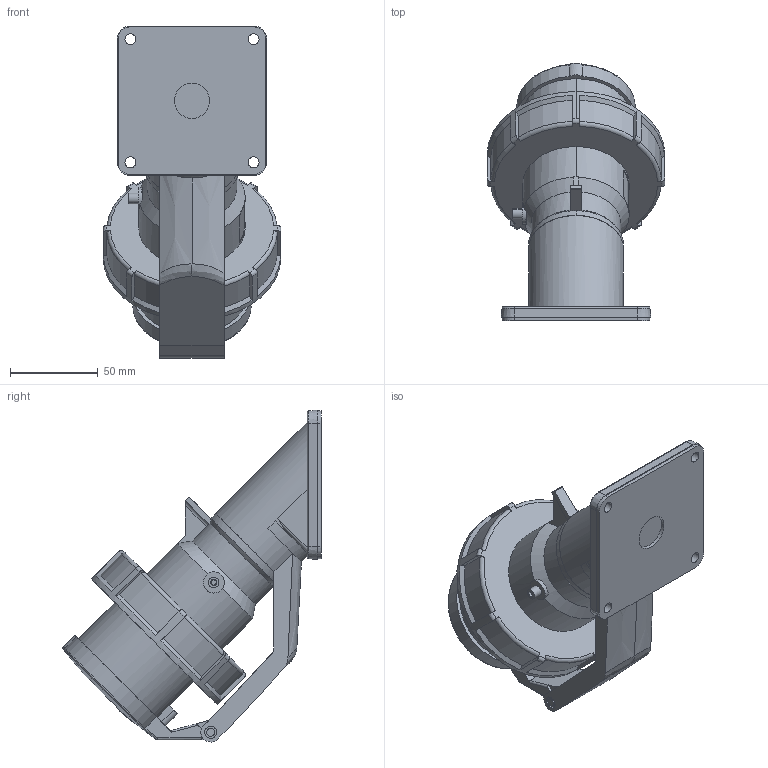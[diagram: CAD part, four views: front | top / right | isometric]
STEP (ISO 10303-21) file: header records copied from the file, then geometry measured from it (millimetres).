
FILE_DESCRIPTION((''),'2;1');
FILE_NAME('1113423_ASM_SW0001','2018-04-17T',('gisse'),('MENNEKES'),'PRO/ENGINEER BY PARAMETRIC TECHNOLOGY CORPORATION, 2015440','PRO/ENGINEER BY PARAMETRIC TECHNOLOGY CORPORATION, 2015440','');
FILE_SCHEMA(('AUTOMOTIVE_DESIGN { 1 0 10303 214 1 1 1 1 }'));
Length unit declared in the file: millimetre
Products named in the file (1): 1113423_ASM_SW0001
Bounding box: 101 x 146.75 x 188.73 mm (x, y, z)
Volume: 639586 mm3; surface area: 76283.5 mm2
Topology: 1 solids, 1 shells, 249 faces, 663 edges, 431 vertices
Faces by surface type: plane 106, cylinder 80, torus 25, cone 16, bspline 14, sphere 6, extrusion 2
Entity records: 14245 total; most frequent: CARTESIAN_POINT 2627, ORIENTED_EDGE 1326, DIRECTION 1311, PRESENTATION_STYLE_ASSIGNMENT 914, STYLED_ITEM 666, CURVE_STYLE 665, EDGE_CURVE 663, AXIS2_PLACEMENT_3D 497
